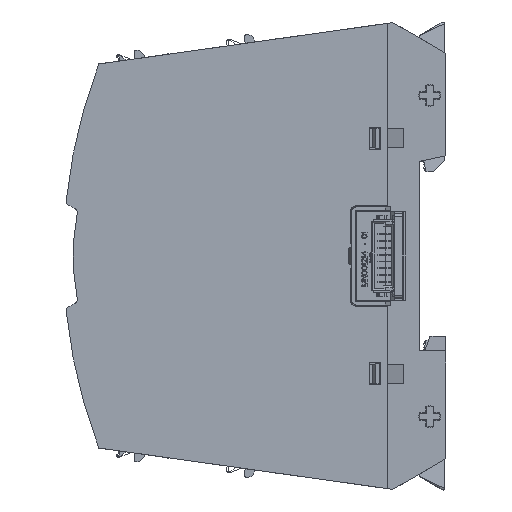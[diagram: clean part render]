
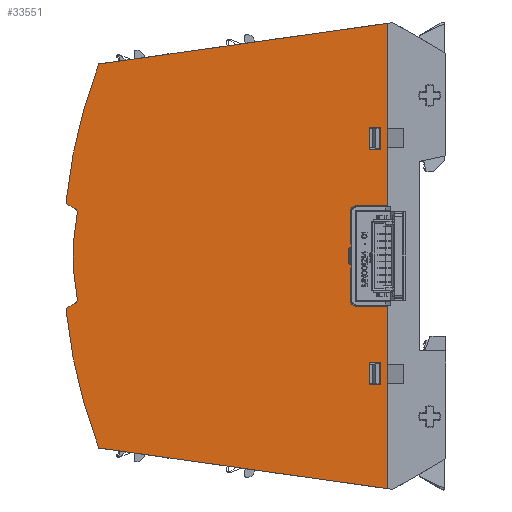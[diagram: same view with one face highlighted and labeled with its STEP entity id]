
A CAD part, left-side view. The second image highlights one B-rep face of the part: STEP entity #33551.
In plain terms, the highlighted planar face has unit normal (-1, 0, 0).
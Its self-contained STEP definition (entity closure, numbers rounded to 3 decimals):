
#22412=DIRECTION('',(0.,0.,-1.));
#22413=VECTOR('',#22412,6.05);
#22414=CARTESIAN_POINT('',(0.,12.79,-2.25));
#22415=LINE('',#22414,#22413);
#22416=CARTESIAN_POINT('',(0.,11.69,-8.3));
#22417=DIRECTION('',(-1.,0.,0.));
#22418=DIRECTION('',(0.,1.,0.));
#22419=AXIS2_PLACEMENT_3D('',#22416,#22417,#22418);
#22421=DIRECTION('',(0.,-1.,0.));
#22422=VECTOR('',#22421,5.8);
#22423=CARTESIAN_POINT('',(0.,11.69,-9.4));
#22424=LINE('',#22423,#22422);
#22425=DIRECTION('',(0.,0.,1.));
#22426=VECTOR('',#22425,34.07);
#22427=CARTESIAN_POINT('',(0.,5.89,-43.47));
#22428=LINE('',#22427,#22426);
#22429=DIRECTION('',(0.,-0.99,-0.139));
#22430=VECTOR('',#22429,54.447);
#22431=CARTESIAN_POINT('',(0.,59.807,-35.892));
#22432=LINE('',#22431,#22430);
#22433=CARTESIAN_POINT('',(0.,-33.53,0.));
#22434=DIRECTION('',(-1.,0.,0.));
#22435=DIRECTION('',(0.,0.995,-0.104));
#22436=AXIS2_PLACEMENT_3D('',#22433,#22434,#22435);
#22438=CARTESIAN_POINT('',(0.,64.935,-10.28));
#22439=DIRECTION('',(-1.,0.,0.));
#22440=DIRECTION('',(0.,0.356,0.935));
#22441=AXIS2_PLACEMENT_3D('',#22438,#22439,#22440);
#22443=CARTESIAN_POINT('',(0.,23.9,0.));
#22444=DIRECTION('',(1.,0.,0.));
#22445=DIRECTION('',(0.,0.981,-0.193));
#22446=AXIS2_PLACEMENT_3D('',#22443,#22444,#22445);
#22448=CARTESIAN_POINT('',(0.,64.935,10.28));
#22449=DIRECTION('',(-1.,0.,0.));
#22450=DIRECTION('',(0.,0.995,0.104));
#22451=AXIS2_PLACEMENT_3D('',#22448,#22449,#22450);
#22453=CARTESIAN_POINT('',(0.,-33.53,0.));
#22454=DIRECTION('',(-1.,0.,0.));
#22455=DIRECTION('',(0.,0.933,0.359));
#22456=AXIS2_PLACEMENT_3D('',#22453,#22454,#22455);
#22458=DIRECTION('',(0.,0.99,-0.139));
#22459=VECTOR('',#22458,54.447);
#22460=CARTESIAN_POINT('',(0.,5.89,43.47));
#22461=LINE('',#22460,#22459);
#22462=DIRECTION('',(0.,0.,1.));
#22463=VECTOR('',#22462,34.07);
#22464=CARTESIAN_POINT('',(0.,5.89,9.4));
#22465=LINE('',#22464,#22463);
#22466=DIRECTION('',(0.,1.,0.));
#22467=VECTOR('',#22466,5.8);
#22468=CARTESIAN_POINT('',(0.,5.89,9.4));
#22469=LINE('',#22468,#22467);
#22470=CARTESIAN_POINT('',(0.,11.69,8.3));
#22471=DIRECTION('',(-1.,0.,0.));
#22472=DIRECTION('',(0.,0.,1.));
#22473=AXIS2_PLACEMENT_3D('',#22470,#22471,#22472);
#22475=DIRECTION('',(0.,0.,-1.));
#22476=VECTOR('',#22475,6.05);
#22477=CARTESIAN_POINT('',(0.,12.79,8.3));
#22478=LINE('',#22477,#22476);
#22479=DIRECTION('',(0.,-1.,0.));
#22480=VECTOR('',#22479,1.);
#22481=CARTESIAN_POINT('',(0.,12.79,2.25));
#22482=LINE('',#22481,#22480);
#22483=DIRECTION('',(0.,0.,1.));
#22484=VECTOR('',#22483,4.5);
#22485=CARTESIAN_POINT('',(0.,11.79,-2.25));
#22486=LINE('',#22485,#22484);
#22487=DIRECTION('',(0.,1.,0.));
#22488=VECTOR('',#22487,1.);
#22489=CARTESIAN_POINT('',(0.,11.79,-2.25));
#22490=LINE('',#22489,#22488);
#22491=DIRECTION('',(0.,1.,0.));
#22492=VECTOR('',#22491,1.9);
#22493=CARTESIAN_POINT('',(0.,7.29,24.1));
#22494=LINE('',#22493,#22492);
#22495=DIRECTION('',(0.,0.,-1.));
#22496=VECTOR('',#22495,4.2);
#22497=CARTESIAN_POINT('',(0.,9.19,24.1));
#22498=LINE('',#22497,#22496);
#22499=DIRECTION('',(0.,-1.,0.));
#22500=VECTOR('',#22499,1.9);
#22501=CARTESIAN_POINT('',(0.,9.19,19.9));
#22502=LINE('',#22501,#22500);
#22503=DIRECTION('',(0.,0.,1.));
#22504=VECTOR('',#22503,4.2);
#22505=CARTESIAN_POINT('',(0.,7.29,19.9));
#22506=LINE('',#22505,#22504);
#22507=DIRECTION('',(0.,1.,0.));
#22508=VECTOR('',#22507,1.9);
#22509=CARTESIAN_POINT('',(0.,7.29,-19.9));
#22510=LINE('',#22509,#22508);
#22511=DIRECTION('',(0.,0.,-1.));
#22512=VECTOR('',#22511,4.2);
#22513=CARTESIAN_POINT('',(0.,9.19,-19.9));
#22514=LINE('',#22513,#22512);
#22515=DIRECTION('',(0.,-1.,0.));
#22516=VECTOR('',#22515,1.9);
#22517=CARTESIAN_POINT('',(0.,9.19,-24.1));
#22518=LINE('',#22517,#22516);
#22519=DIRECTION('',(0.,0.,1.));
#22520=VECTOR('',#22519,4.2);
#22521=CARTESIAN_POINT('',(0.,7.29,-24.1));
#22522=LINE('',#22521,#22520);
#24510=CARTESIAN_POINT('',(0.,68.85,0.));
#24511=DIRECTION('',(1.,0.,0.));
#24512=DIRECTION('',(0.,-0.356,0.935));
#24513=AXIS2_PLACEMENT_3D('',#24510,#24511,#24512);
#24537=CARTESIAN_POINT('',(0.,68.85,0.));
#24538=DIRECTION('',(1.,0.,0.));
#24539=DIRECTION('',(0.,-0.443,-0.897));
#24540=AXIS2_PLACEMENT_3D('',#24537,#24538,#24539);
#24568=CARTESIAN_POINT('',(0.,64.863,8.069));
#24569=DIRECTION('',(1.,0.,0.));
#24570=DIRECTION('',(0.,-0.443,0.897));
#24571=AXIS2_PLACEMENT_3D('',#24568,#24569,#24570);
#24583=CARTESIAN_POINT('',(0.,64.863,-8.069));
#24584=DIRECTION('',(1.,0.,0.));
#24585=DIRECTION('',(0.,-0.981,0.193));
#24586=AXIS2_PLACEMENT_3D('',#24583,#24584,#24585);
#31366=CARTESIAN_POINT('',(0.,5.89,43.47));
#31367=CARTESIAN_POINT('',(0.,59.807,35.892));
#31368=VERTEX_POINT('',#31366);
#31369=VERTEX_POINT('',#31367);
#31370=CARTESIAN_POINT('',(0.,59.807,-35.892));
#31371=CARTESIAN_POINT('',(0.,5.89,-43.47));
#31372=VERTEX_POINT('',#31370);
#31373=VERTEX_POINT('',#31371);
#31382=CARTESIAN_POINT('',(0.,64.42,8.965));
#31384=VERTEX_POINT('',#31382);
#31386=CARTESIAN_POINT('',(0.,63.882,7.875));
#31388=VERTEX_POINT('',#31386);
#31391=CARTESIAN_POINT('',(0.,64.42,-8.965));
#31393=VERTEX_POINT('',#31391);
#31395=CARTESIAN_POINT('',(0.,63.882,-7.875));
#31397=VERTEX_POINT('',#31395);
#31398=CARTESIAN_POINT('',(0.,65.929,10.384));
#31399=CARTESIAN_POINT('',(0.,65.291,9.345));
#31400=VERTEX_POINT('',#31398);
#31401=VERTEX_POINT('',#31399);
#31410=CARTESIAN_POINT('',(0.,65.291,-9.345));
#31411=VERTEX_POINT('',#31410);
#31412=CARTESIAN_POINT('',(0.,65.929,-10.384));
#31413=VERTEX_POINT('',#31412);
#31430=CARTESIAN_POINT('',(0.,5.89,9.4));
#31432=VERTEX_POINT('',#31430);
#31434=CARTESIAN_POINT('',(0.,5.89,-9.4));
#31436=VERTEX_POINT('',#31434);
#31438=CARTESIAN_POINT('',(0.,11.69,9.4));
#31439=VERTEX_POINT('',#31438);
#31440=CARTESIAN_POINT('',(0.,11.69,-9.4));
#31441=VERTEX_POINT('',#31440);
#31442=CARTESIAN_POINT('',(0.,12.79,2.25));
#31443=CARTESIAN_POINT('',(0.,12.79,8.3));
#31444=VERTEX_POINT('',#31442);
#31445=VERTEX_POINT('',#31443);
#32427=CARTESIAN_POINT('',(0.,12.79,-2.25));
#32428=CARTESIAN_POINT('',(0.,11.79,-2.25));
#32429=VERTEX_POINT('',#32427);
#32430=VERTEX_POINT('',#32428);
#32431=CARTESIAN_POINT('',(0.,11.79,2.25));
#32432=VERTEX_POINT('',#32431);
#32437=CARTESIAN_POINT('',(0.,12.79,-8.3));
#32438=VERTEX_POINT('',#32437);
#32821=CARTESIAN_POINT('',(0.,9.19,24.1));
#32822=CARTESIAN_POINT('',(0.,7.29,24.1));
#32823=VERTEX_POINT('',#32821);
#32824=VERTEX_POINT('',#32822);
#32825=CARTESIAN_POINT('',(0.,7.29,19.9));
#32826=VERTEX_POINT('',#32825);
#32827=CARTESIAN_POINT('',(0.,9.19,19.9));
#32828=VERTEX_POINT('',#32827);
#32829=CARTESIAN_POINT('',(0.,9.19,-19.9));
#32830=CARTESIAN_POINT('',(0.,7.29,-19.9));
#32831=VERTEX_POINT('',#32829);
#32832=VERTEX_POINT('',#32830);
#32833=CARTESIAN_POINT('',(0.,7.29,-24.1));
#32834=VERTEX_POINT('',#32833);
#32835=CARTESIAN_POINT('',(0.,9.19,-24.1));
#32836=VERTEX_POINT('',#32835);
#33480=CARTESIAN_POINT('',(0.,0.,0.));
#33481=DIRECTION('',(-1.,0.,0.));
#33482=DIRECTION('',(0.,0.,1.));
#33483=AXIS2_PLACEMENT_3D('',#33480,#33481,#33482);
#33484=PLANE('',#33483);
#33486=ORIENTED_EDGE('',*,*,#33485,.T.);
#33488=ORIENTED_EDGE('',*,*,#33487,.T.);
#33490=ORIENTED_EDGE('',*,*,#33489,.T.);
#33492=ORIENTED_EDGE('',*,*,#33491,.F.);
#33494=ORIENTED_EDGE('',*,*,#33493,.F.);
#33496=ORIENTED_EDGE('',*,*,#33495,.F.);
#33498=ORIENTED_EDGE('',*,*,#33497,.F.);
#33500=ORIENTED_EDGE('',*,*,#33499,.F.);
#33502=ORIENTED_EDGE('',*,*,#33501,.F.);
#33504=ORIENTED_EDGE('',*,*,#33503,.T.);
#33506=ORIENTED_EDGE('',*,*,#33505,.F.);
#33508=ORIENTED_EDGE('',*,*,#33507,.F.);
#33510=ORIENTED_EDGE('',*,*,#33509,.F.);
#33512=ORIENTED_EDGE('',*,*,#33511,.F.);
#33514=ORIENTED_EDGE('',*,*,#33513,.F.);
#33516=ORIENTED_EDGE('',*,*,#33515,.F.);
#33518=ORIENTED_EDGE('',*,*,#33517,.T.);
#33520=ORIENTED_EDGE('',*,*,#33519,.T.);
#33522=ORIENTED_EDGE('',*,*,#33521,.T.);
#33524=ORIENTED_EDGE('',*,*,#33523,.T.);
#33526=ORIENTED_EDGE('',*,*,#33525,.F.);
#33528=ORIENTED_EDGE('',*,*,#33527,.T.);
#33529=EDGE_LOOP('',(#33486,#33488,#33490,#33492,#33494,#33496,#33498,#33500,
#33502,#33504,#33506,#33508,#33510,#33512,#33514,#33516,#33518,#33520,#33522,
#33524,#33526,#33528));
#33530=FACE_OUTER_BOUND('',#33529,.F.);
#33532=ORIENTED_EDGE('',*,*,#33531,.T.);
#33534=ORIENTED_EDGE('',*,*,#33533,.T.);
#33536=ORIENTED_EDGE('',*,*,#33535,.T.);
#33538=ORIENTED_EDGE('',*,*,#33537,.T.);
#33539=EDGE_LOOP('',(#33532,#33534,#33536,#33538));
#33540=FACE_BOUND('',#33539,.F.);
#33542=ORIENTED_EDGE('',*,*,#33541,.T.);
#33544=ORIENTED_EDGE('',*,*,#33543,.T.);
#33546=ORIENTED_EDGE('',*,*,#33545,.T.);
#33548=ORIENTED_EDGE('',*,*,#33547,.T.);
#33549=EDGE_LOOP('',(#33542,#33544,#33546,#33548));
#33550=FACE_BOUND('',#33549,.F.);
#33551=ADVANCED_FACE('',(#33530,#33540,#33550),#33484,.T.);
#22420=CIRCLE('',#22419,1.1);
#22437=CIRCLE('',#22436,100.);
#22442=CIRCLE('',#22441,1.);
#22447=CIRCLE('',#22446,40.75);
#22452=CIRCLE('',#22451,1.);
#22457=CIRCLE('',#22456,100.);
#22474=CIRCLE('',#22473,1.1);
#24514=CIRCLE('',#24513,10.);
#24541=CIRCLE('',#24540,10.);
#24572=CIRCLE('',#24571,1.);
#24587=CIRCLE('',#24586,1.);
#33485=EDGE_CURVE('',#32429,#32438,#22415,.T.);
#33487=EDGE_CURVE('',#32438,#31441,#22420,.T.);
#33489=EDGE_CURVE('',#31441,#31436,#22424,.T.);
#33491=EDGE_CURVE('',#31373,#31436,#22428,.T.);
#33493=EDGE_CURVE('',#31372,#31373,#22432,.T.);
#33495=EDGE_CURVE('',#31413,#31372,#22437,.T.);
#33497=EDGE_CURVE('',#31411,#31413,#22442,.T.);
#33499=EDGE_CURVE('',#31393,#31411,#24541,.T.);
#33501=EDGE_CURVE('',#31397,#31393,#24587,.T.);
#33503=EDGE_CURVE('',#31397,#31388,#22447,.T.);
#33505=EDGE_CURVE('',#31384,#31388,#24572,.T.);
#33507=EDGE_CURVE('',#31401,#31384,#24514,.T.);
#33509=EDGE_CURVE('',#31400,#31401,#22452,.T.);
#33511=EDGE_CURVE('',#31369,#31400,#22457,.T.);
#33513=EDGE_CURVE('',#31368,#31369,#22461,.T.);
#33515=EDGE_CURVE('',#31432,#31368,#22465,.T.);
#33517=EDGE_CURVE('',#31432,#31439,#22469,.T.);
#33519=EDGE_CURVE('',#31439,#31445,#22474,.T.);
#33521=EDGE_CURVE('',#31445,#31444,#22478,.T.);
#33523=EDGE_CURVE('',#31444,#32432,#22482,.T.);
#33525=EDGE_CURVE('',#32430,#32432,#22486,.T.);
#33527=EDGE_CURVE('',#32430,#32429,#22490,.T.);
#33531=EDGE_CURVE('',#32824,#32823,#22494,.T.);
#33533=EDGE_CURVE('',#32823,#32828,#22498,.T.);
#33535=EDGE_CURVE('',#32828,#32826,#22502,.T.);
#33537=EDGE_CURVE('',#32826,#32824,#22506,.T.);
#33541=EDGE_CURVE('',#32832,#32831,#22510,.T.);
#33543=EDGE_CURVE('',#32831,#32836,#22514,.T.);
#33545=EDGE_CURVE('',#32836,#32834,#22518,.T.);
#33547=EDGE_CURVE('',#32834,#32832,#22522,.T.);
